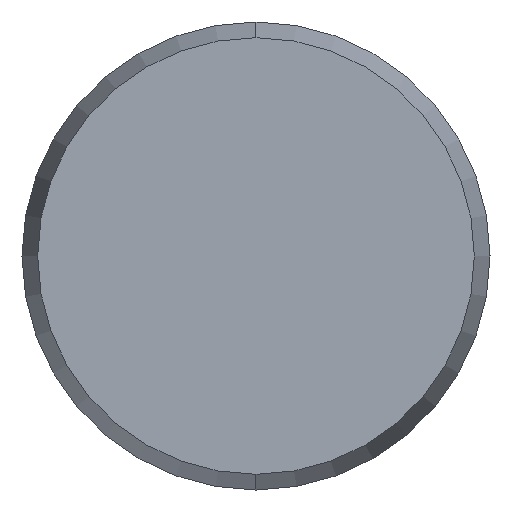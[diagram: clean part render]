
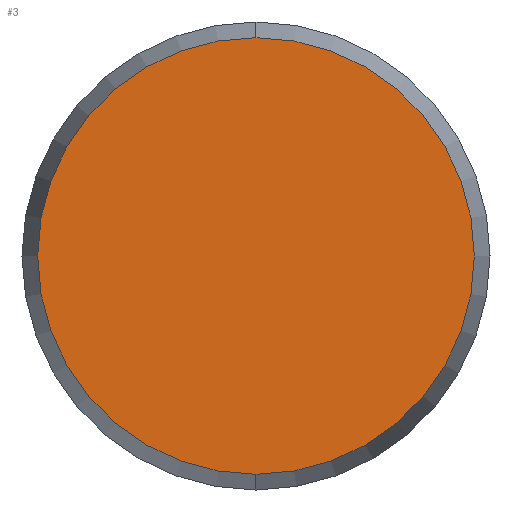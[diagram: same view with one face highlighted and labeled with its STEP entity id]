
A CAD part, left-side view. The second image highlights one B-rep face of the part: STEP entity #3.
In plain terms, the highlighted planar face has unit normal (-1, 0, 0).
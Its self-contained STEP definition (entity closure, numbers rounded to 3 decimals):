
#1 = ORIENTED_EDGE ( 'NONE', *, *, #28, .F. ) ;
#3 = ADVANCED_FACE ( 'NONE', ( #51 ), #48, .F. ) ;
#26 = VERTEX_POINT ( 'NONE', #109 ) ;
#27 = VERTEX_POINT ( 'NONE', #128 ) ;
#28 = EDGE_CURVE ( 'NONE', #27, #26, #121, .T. ) ;
#33 = ORIENTED_EDGE ( 'NONE', *, *, #38, .F. ) ;
#34 = EDGE_LOOP ( 'NONE', ( #1, #33 ) ) ;
#38 = EDGE_CURVE ( 'NONE', #26, #27, #114, .T. ) ;
#48 = PLANE ( 'NONE',  #49 ) ;
#49 = AXIS2_PLACEMENT_3D ( 'NONE', #65, #64, #63 ) ;
#51 = FACE_OUTER_BOUND ( 'NONE', #34, .T. ) ;
#63 = DIRECTION ( 'NONE',  ( 0., 0., -1. ) ) ;
#64 = DIRECTION ( 'NONE',  ( 1., 0., 0. ) ) ;
#65 = CARTESIAN_POINT ( 'NONE',  ( -30., 0., 0. ) ) ;
#109 = CARTESIAN_POINT ( 'NONE',  ( -30., 0., -7.464 ) ) ;
#113 = AXIS2_PLACEMENT_3D ( 'NONE', #127, #132, #131 ) ;
#114 = CIRCLE ( 'NONE', #113, 7.464 ) ;
#118 = DIRECTION ( 'NONE',  ( 0., 0., -1. ) ) ;
#119 = DIRECTION ( 'NONE',  ( 1., 0., 0. ) ) ;
#120 = AXIS2_PLACEMENT_3D ( 'NONE', #126, #119, #118 ) ;
#121 = CIRCLE ( 'NONE', #120, 7.464 ) ;
#126 = CARTESIAN_POINT ( 'NONE',  ( -30., 0., 0. ) ) ;
#127 = CARTESIAN_POINT ( 'NONE',  ( -30., 0., 0. ) ) ;
#128 = CARTESIAN_POINT ( 'NONE',  ( -30., 0., 7.464 ) ) ;
#131 = DIRECTION ( 'NONE',  ( 0., 0., -1. ) ) ;
#132 = DIRECTION ( 'NONE',  ( 1., 0., 0. ) ) ;
